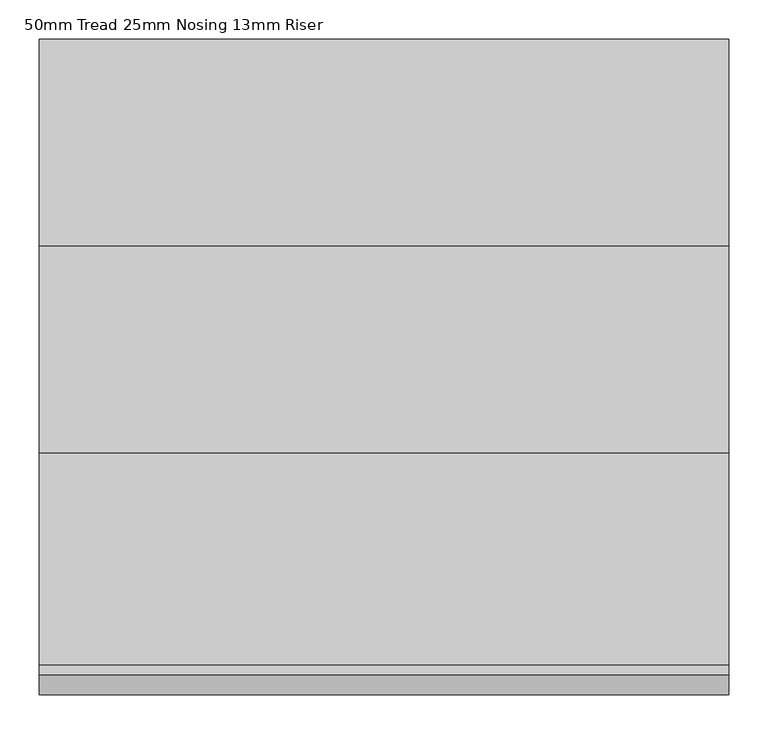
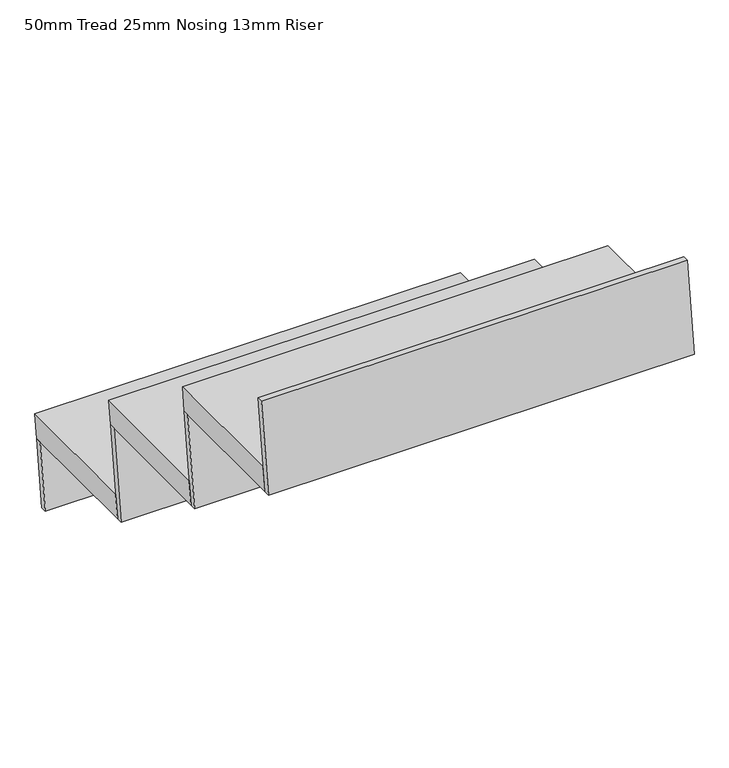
"""IFC4 building model written with IfcOpenShell, lengths in millimetres: stair flight geometry, 50mm Tread 25mm Nosing 13mm Riser."""

from ifc_helpers import new_model, si_unit, frame, origin, place, context, project, spatial, polyline, outline, extrude, source, transform, mapped, element, save


def stair_flight_50mm_tread_25mm_nosing_13mm_riser_e6fdfd2e(model_context):
    return source(origin(), model_context, "Body", "SweptSolid", [
        extrude(outline(polyline([(3354.9610667, -2552.7), (3644.9, -2552.7), (3638.3383202, -2602.7), (3348.3993869, -2602.7), (3354.9610667, -2552.7)])), frame((-5143.5, 0.0, 0.0), z_axis=(1.0, 0.0, 0.0), x_axis=(0.0, 1.0, 0.0)), (0.0, 0.0, 1.0), 882.65),
        extrude(outline(polyline([(3638.3383202, -2602.7), (3619.9, -2743.2), (3607.2928204, -2743.2), (3625.7311406, -2602.7), (3638.3383202, -2602.7)])), frame((-5143.5, 0.0, 0.0), z_axis=(1.0, 0.0, 0.0), x_axis=(0.0, 1.0, 0.0)), (0.0, 0.0, 1.0), 882.65),
        extrude(outline(polyline([(3373.3993869, -2412.2), (3348.3993869, -2602.7), (3335.7922073, -2602.7), (3360.7922073, -2412.2), (3373.3993869, -2412.2)])), frame((-5143.5, 0.0, 0.0), z_axis=(1.0, 0.0, 0.0), x_axis=(0.0, 1.0, 0.0)), (0.0, 0.0, 1.0), 882.65),
        extrude(outline(polyline([(3090.0221333, -2362.2), (3379.9610667, -2362.2), (3373.3993869, -2412.2), (3083.4604535, -2412.2), (3090.0221333, -2362.2)])), frame((-5143.5, 0.0, 0.0), z_axis=(1.0, 0.0, 0.0), x_axis=(0.0, 1.0, 0.0)), (0.0, 0.0, 1.0), 882.65),
        extrude(outline(polyline([(3108.4604535, -2221.7), (3083.4604535, -2412.2), (3070.8532739, -2412.2), (3095.8532739, -2221.7), (3108.4604535, -2221.7)])), frame((-5143.5, 0.0, 0.0), z_axis=(1.0, 0.0, 0.0), x_axis=(0.0, 1.0, 0.0)), (0.0, 0.0, 1.0), 882.65),
        extrude(outline(polyline([(2843.5215202, -2031.2), (2818.5215202, -2221.7), (2805.9143406, -2221.7), (2830.9143406, -2031.2), (2843.5215202, -2031.2)])), frame((-5143.5, 0.0, 0.0), z_axis=(1.0, 0.0, 0.0), x_axis=(0.0, 1.0, 0.0)), (0.0, 0.0, 1.0), 882.65),
        extrude(outline(polyline([(2825.0832, -2171.7), (3115.0221333, -2171.7), (3108.4604535, -2221.7), (2818.5215202, -2221.7), (2825.0832, -2171.7)])), frame((-5143.5, 0.0, 0.0), z_axis=(1.0, 0.0, 0.0), x_axis=(0.0, 1.0, 0.0)), (0.0, 0.0, 1.0), 882.65),
    ])


if __name__ == "__main__":
    model = new_model("IFC4")
    model_context = context("Model", 3, world=origin())
    ifc_project = project(units=[si_unit("LENGTHUNIT", "METRE", prefix="MILLI")], contexts=[model_context])
    site = spatial("IfcSite", under=ifc_project)
    building = spatial("IfcBuilding", under=site)
    placement = place(None, origin())
    stair_flight_50mm_tread_25mm_nosing_13mm_riser_shape = stair_flight_50mm_tread_25mm_nosing_13mm_riser_e6fdfd2e(model_context)
    element("IfcStairFlight", 1, ObjectType="50mm Tread 25mm Nosing 13mm Riser", at=placement, inside=building, context=model_context, shape_type="MappedRepresentation", body=[
        mapped(stair_flight_50mm_tread_25mm_nosing_13mm_riser_shape, transform((0.0, 0.0, 0.0), x_axis=(1.0, 0.0, 0.0), y_axis=(0.0, 1.0, 0.0), z_axis=(0.0, 0.0, 1.0))),
    ])
    save(model, "model.ifc")
